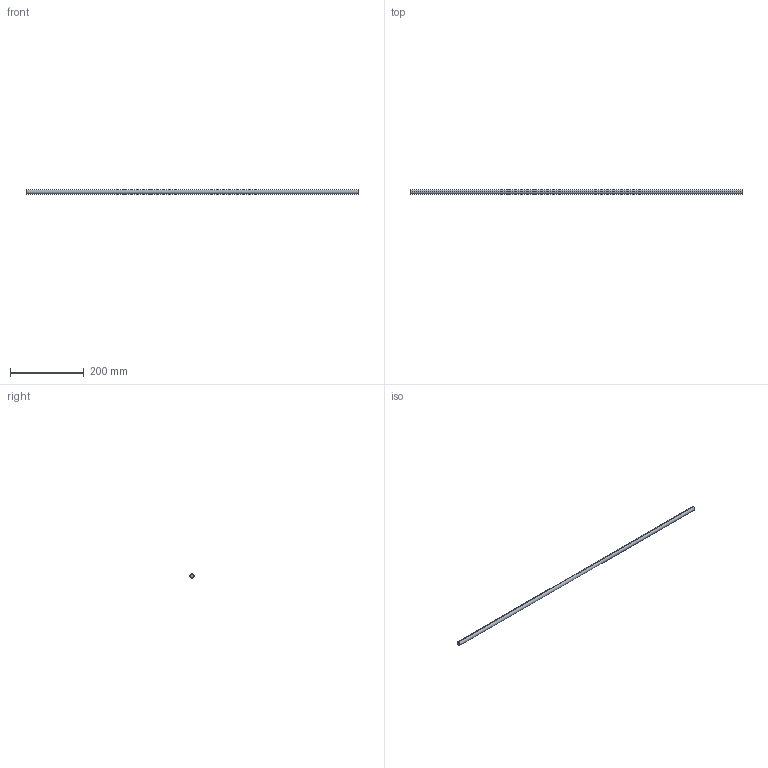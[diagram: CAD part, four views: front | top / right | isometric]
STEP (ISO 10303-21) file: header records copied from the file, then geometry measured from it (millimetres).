
FILE_DESCRIPTION (( 'STEP AP214' ), '1' );
FILE_NAME ('Querreling_2S-Rel_7102_KAB-1000.step', '2010-09-22T15:05:59', ( 'grass' ), ( '' ), 'SwSTEP 2.0', 'SolidWorks 2010', '' );
FILE_SCHEMA (( 'AUTOMOTIVE_DESIGN' ));
Length unit declared in the file: millimetre
Products named in the file (1): Querreling_2S-Rel_7102_KAB-1000
Bounding box: 899 x 11 x 11 mm (x, y, z)
Volume: 85434.8 mm3; surface area: 31257.3 mm2
Topology: 1 solids, 1 shells, 4 faces, 6 edges, 4 vertices
Faces by surface type: cylinder 2, plane 2
Entity records: 128 total; most frequent: DIRECTION 20, CARTESIAN_POINT 15, ORIENTED_EDGE 12, AXIS2_PLACEMENT_3D 9, EDGE_CURVE 6, VERTEX_POINT 4, FACE_OUTER_BOUND 4, CIRCLE 4
